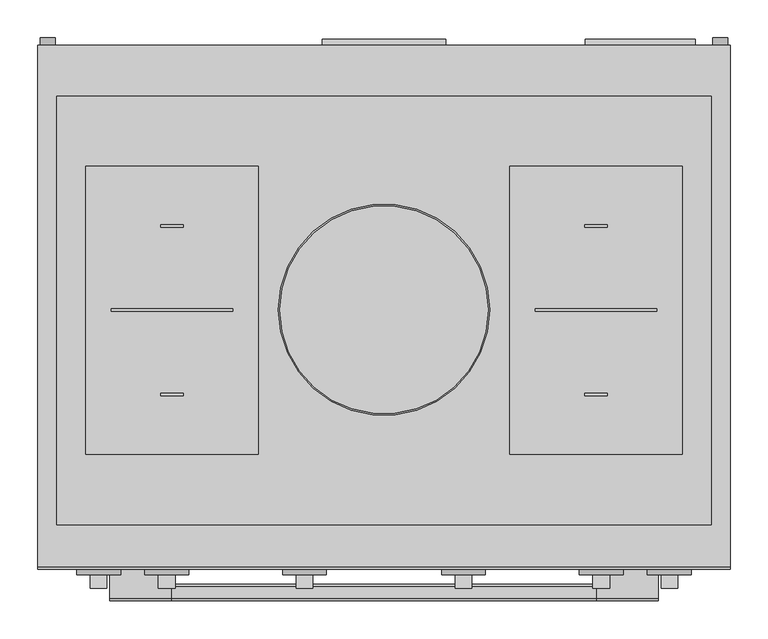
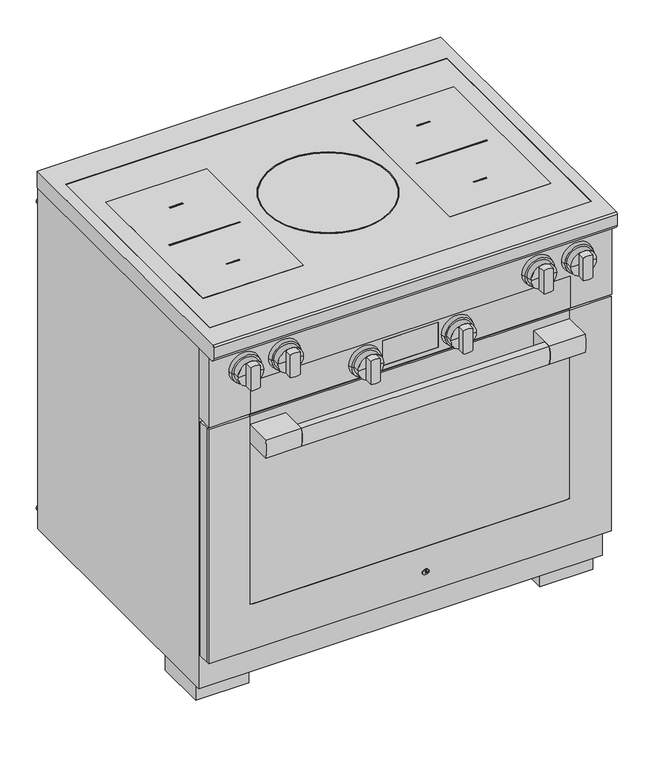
"""IFC4 building model written with IfcOpenShell, lengths in millimetres: proxy geometry, 12535250_USA_HR1432-3_EDST-CLST : 25143281_USA_12535250_HR1432-3_EDST-CLST."""

from ifc_helpers import new_model, si_unit, point, frame, frame_2d, origin, origin_with_axes, place, context, project, spatial, polyline, circle_curve, ellipse_curve, trimmed, segment, composite_curve, outline, extrude, faceted_brep, source, transform, mapped, element, save
from ifc_brep_helpers import plane_surface, cylinder_surface, revolved_surface, extruded_surface, advanced_brep


def specialty_equipment_34f8124d(model_context):
    return source(origin(), model_context, "Body", "SolidModel", [
        extrude(outline(polyline([(-427.0, -617.0), (427.0, -617.0), (427.0, -638.0), (-427.0, -638.0), (-427.0, -617.0)])), frame((0.0, 0.0, 133.0), z_axis=(0.0, 0.0, 1.0), x_axis=(1.0, 0.0, 0.0)), (0.0, 0.0, 1.0), 550.0),
        advanced_brep(
        [(363.0, -664.7, 688.0), (456.0, -664.7, 688.0), (456.0, -664.7, 127.0), (-456.0, -664.7, 127.0), (-456.0, -664.7, 688.0), (-363.0, -664.7, 688.0), (-363.0, -664.7, 687.0), (-455.0, -664.7, 687.0), (-455.0, -664.7, 128.0), (455.0, -664.7, 128.0), (455.0, -664.7, 687.0), (363.0, -664.7, 687.0), (-363.0, -670.0, 688.0), (-456.0, -670.0, 688.0), (-456.0, -670.0, 127.0), (456.0, -670.0, 127.0), (456.0, -670.0, 688.0), (363.0, -670.0, 688.0), (363.0, -670.0, 241.0), (357.0, -670.0, 235.0), (-357.0, -670.0, 235.0), (-363.0, -670.0, 241.0), (-363.0, -668.7, 241.0), (-363.0, -668.7, 687.0), (357.0, -668.7, 235.0), (-357.0, -668.7, 235.0), (363.0, -668.7, 687.0), (363.0, -668.7, 241.0), (455.0, -668.7, 687.0), (455.0, -668.7, 128.0), (-455.0, -668.7, 128.0), (-455.0, -668.7, 687.0)],
        [
            (0, 1),
            (1, 2),
            (2, 3),
            (3, 4),
            (4, 5),
            (5, 6),
            (6, 7),
            (7, 8),
            (8, 9),
            (9, 10),
            (10, 11),
            (11, 0),
            (12, 13),
            (13, 14),
            (14, 15),
            (15, 16),
            (16, 17),
            (17, 18),
            (18, 19, circle_curve(frame((357.0, -670.0, 241.0), z_axis=(0.0, 1.0, 0.0), x_axis=(-1.0, 0.0, 0.0)), 6.0)),
            (19, 20),
            (20, 21, circle_curve(frame((-357.0, -670.0, 241.0), z_axis=(0.0, 1.0, 0.0), x_axis=(-1.0, 0.0, 0.0)), 6.0)),
            (21, 12),
            (21, 22),
            (22, 23),
            (23, 6),
            (5, 12),
            (19, 24),
            (24, 25),
            (25, 20),
            (17, 0),
            (11, 26),
            (26, 27),
            (27, 18),
            (16, 1),
            (15, 2),
            (14, 3),
            (13, 4),
            (25, 22, circle_curve(frame((-357.0, -668.7, 241.0), z_axis=(0.0, 1.0, 0.0), x_axis=(-1.0, 0.0, 0.0)), 6.0)),
            (27, 24, circle_curve(frame((357.0, -668.7, 241.0), z_axis=(0.0, 1.0, 0.0), x_axis=(-1.0, 0.0, 0.0)), 6.0)),
            (28, 29),
            (29, 30),
            (30, 31),
            (31, 23),
            (26, 28),
            (28, 10),
            (9, 29),
            (8, 30),
            (7, 31),
        ],
        [
            plane_surface(frame((-363.0, -664.7, 241.0), z_axis=(0.0, 1.0, 0.0), x_axis=(0.0, 0.0, -1.0))),
            plane_surface(frame((-363.0, -670.0, 241.0), z_axis=(0.0, -1.0, 0.0), x_axis=(0.0, 0.0, 1.0))),
            plane_surface(frame((-363.0, -664.7, 688.0), z_axis=(1.0, 0.0, 0.0), x_axis=(0.0, -1.0, 0.0))),
            plane_surface(frame((-357.0, -664.7, 235.0), z_axis=(0.0, 0.0, 1.0), x_axis=(0.0, -1.0, 0.0))),
            plane_surface(frame((363.0, -664.7, 241.0), z_axis=(-1.0, 0.0, 0.0), x_axis=(0.0, -1.0, 0.0))),
            plane_surface(frame((363.0, -664.7, 688.0), z_axis=(0.0, 0.0, 1.0), x_axis=(0.0, -1.0, 0.0))),
            plane_surface(frame((456.0, -664.7, 688.0), z_axis=(1.0, 0.0, 0.0), x_axis=(0.0, -1.0, 0.0))),
            plane_surface(frame((456.0, -664.7, 127.0), z_axis=(0.0, 0.0, -1.0), x_axis=(0.0, -1.0, 0.0))),
            plane_surface(frame((-456.0, -664.7, 127.0), z_axis=(-1.0, 0.0, 0.0), x_axis=(0.0, -1.0, 0.0))),
            plane_surface(frame((-456.0, -664.7, 688.0), z_axis=(0.0, 0.0, 1.0), x_axis=(0.0, -1.0, 0.0))),
            revolved_surface(polyline([(-363.0, -670.0, 241.0), (-363.0, -668.7, 241.0)]), (-357.0, -670.0, 241.0), (0.0, -1.0, 0.0)),
            revolved_surface(polyline([(351.0, -670.0, 241.0), (351.0, -668.7, 241.0)]), (357.0, -670.0, 241.0), (0.0, -1.0, 0.0)),
            plane_surface(frame((455.0, -668.7, 687.0), z_axis=(0.0, 1.0, 0.0), x_axis=(0.0, 0.0, 1.0))),
            plane_surface(frame((455.0, -664.7, 687.0), z_axis=(-1.0, 0.0, 0.0), x_axis=(0.0, -1.0, 0.0))),
            plane_surface(frame((455.0, -664.7, 128.0), z_axis=(0.0, 0.0, 1.0), x_axis=(0.0, -1.0, 0.0))),
            plane_surface(frame((-455.0, -664.7, 128.0), z_axis=(1.0, 0.0, 0.0), x_axis=(0.0, -1.0, 0.0))),
            plane_surface(frame((-455.0, -664.7, 687.0), z_axis=(0.0, 0.0, -1.0), x_axis=(0.0, -1.0, 0.0))),
        ],
        [
            (0, [[1, 2, 3, 4, 5, 6, 7, 8, 9, 10, 11, 12]]),
            (1, [[13, 14, 15, 16, 17, 18, 19, 20, 21, 22]]),
            (2, [[-22, 23, 24, 25, -6, 26]]),
            (3, [[-20, 27, 28, 29]]),
            (4, [[-18, 30, -12, 31, 32, 33]]),
            (5, [[-1, -30, -17, 34]]),
            (6, [[-2, -34, -16, 35]]),
            (7, [[-3, -35, -15, 36]]),
            (8, [[-4, -36, -14, 37]]),
            (9, [[-5, -37, -13, -26]]),
            (10, [[-21, -29, 38, -23]]),
            (11, [[-19, -33, 39, -27]]),
            (12, [[40, 41, 42, 43, -24, -38, -28, -39, -32, 44]]),
            (13, [[-40, 45, -10, 46]]),
            (14, [[-41, -46, -9, 47]]),
            (15, [[-42, -47, -8, 48]]),
            (16, [[-45, -44, -31, -11]]),
            (16, [[-48, -7, -25, -43]]),
        ],
    ),
        extrude(outline(polyline([(-455.0, -664.7), (455.0, -664.7), (455.0, -668.7), (-455.0, -668.7), (-455.0, -664.7)])), frame((0.0, 0.0, 128.0), z_axis=(0.0, 0.0, 1.0), x_axis=(1.0, 0.0, 0.0)), (0.0, 0.0, 1.0), 559.0),
        extrude(outline(polyline([(-456.0, -638.0), (456.0, -638.0), (456.0, -664.7), (-456.0, -664.7), (-456.0, -638.0)])), frame((0.0, 0.0, 127.0), z_axis=(0.0, 0.0, 1.0), x_axis=(1.0, 0.0, 0.0)), (0.0, 0.0, 1.0), 561.0),
        extrude(outline(composite_curve([segment(polyline([(-668.7, 667.0), (-668.7, 624.0), (-731.0, 624.0)]), True, "CONTINUOUS"), segment(trimmed(circle_curve(frame_2d((-655.4583333, 645.5)), 78.5416667), [point((-731.0, 624.0))], [point((-731.0, 667.0))], False, "CARTESIAN"), True, "CONTINUOUS"), segment(polyline([(-731.0, 667.0), (-668.7, 667.0)]), True, "CONTINUOUS")], self_intersect=False)), frame((-362.0, 0.0, 0.0), z_axis=(1.0, 0.0, 0.0), x_axis=(0.0, 1.0, 0.0)), (0.0, 0.0, 1.0), 81.0),
        extrude(outline(composite_curve([segment(polyline([(-731.0, 667.0), (-668.7, 667.0), (-668.7, 624.0), (-731.0, 624.0)]), True, "CONTINUOUS"), segment(trimmed(circle_curve(frame_2d((-655.4583333, 645.5)), 78.5416667), [point((-731.0, 624.0))], [point((-731.0, 667.0))], False, "CARTESIAN"), True, "CONTINUOUS")], self_intersect=False)), frame((281.0, 0.0, 0.0), z_axis=(1.0, 0.0, 0.0), x_axis=(0.0, 1.0, 0.0)), (0.0, 0.0, 1.0), 81.0),
        extrude(outline(composite_curve([segment(polyline([(-714.0, 624.0), (-731.0, 624.0)]), True, "CONTINUOUS"), segment(trimmed(circle_curve(frame_2d((-655.4583333, 645.5)), 78.5416667), [point((-731.0, 624.0))], [point((-731.0, 667.0))], False, "CARTESIAN"), True, "CONTINUOUS"), segment(polyline([(-731.0, 667.0), (-714.0, 667.0)]), True, "CONTINUOUS"), segment(trimmed(circle_curve(frame_2d((-789.5416667, 645.5)), 78.5416667), [point((-714.0, 667.0))], [point((-714.0, 624.0))], False, "CARTESIAN"), True, "CONTINUOUS")], self_intersect=False)), frame((-281.0, 0.0, 0.0), z_axis=(1.0, 0.0, 0.0), x_axis=(0.0, 1.0, 0.0)), (0.0, 0.0, 1.0), 562.0),
        advanced_brep(
        [(457.2, 0.0, 902.0), (457.2, -688.3499547, 902.0), (457.2, -692.0, 898.3499547), (457.2, -692.0, 872.0), (457.2, -682.0, 862.0), (457.2, 0.0, 862.0), (-457.2, 0.0, 902.0), (-457.2, 0.0, 862.0), (-457.2, -682.0, 862.0), (-457.2, -692.0, 872.0), (-457.2, -692.0, 898.3499547), (-457.2, -688.3499547, 902.0), (-432.2, -67.0, 902.0), (432.2, -67.0, 902.0), (432.2, -633.0, 902.0), (-432.2, -633.0, 902.0), (432.2, -67.0, 870.0), (-432.2, -67.0, 870.0), (-432.2, -633.0, 870.0), (432.2, -633.0, 870.0)],
        [
            (0, 1),
            (1, 2, circle_curve(frame((457.2, -688.0, 898.0), z_axis=(1.0, 0.0, 0.0), x_axis=(0.0, 0.0, 1.0)), 4.0152794)),
            (2, 3),
            (3, 4, circle_curve(frame((457.2, -682.0, 872.0), z_axis=(1.0, 0.0, 0.0), x_axis=(0.0, 0.0, 1.0)), 10.0)),
            (4, 5),
            (5, 0),
            (6, 7),
            (7, 8),
            (8, 9, circle_curve(frame((-457.2, -682.0, 872.0), z_axis=(-1.0, 0.0, 0.0), x_axis=(0.0, 0.0, 1.0)), 10.0)),
            (9, 10),
            (10, 11, circle_curve(frame((-457.2, -688.0, 898.0), z_axis=(-1.0, 0.0, 0.0), x_axis=(0.0, 0.0, 1.0)), 4.0152794)),
            (11, 6),
            (0, 6),
            (11, 1),
            (12, 13),
            (13, 14),
            (14, 15),
            (15, 12),
            (10, 2),
            (9, 3),
            (8, 4),
            (7, 5),
            (16, 17),
            (17, 18),
            (18, 19),
            (19, 16),
            (16, 13),
            (12, 17),
            (15, 18),
            (14, 19),
        ],
        [
            plane_surface(frame((457.2, -688.3499547, 902.0), z_axis=(1.0, 0.0, 0.0), x_axis=(0.0, -1.0, 0.0))),
            plane_surface(frame((-457.2, -688.3499547, 902.0), z_axis=(-1.0, 0.0, 0.0), x_axis=(0.0, 1.0, 0.0))),
            plane_surface(frame((457.2, 0.0, 902.0), z_axis=(0.0, 0.0, 1.0), x_axis=(-1.0, 0.0, 0.0))),
            cylinder_surface(frame((-457.2, -688.0, 898.0), z_axis=(1.0, 0.0, 0.0), x_axis=(0.0, 0.0, 1.0)), 4.0152794),
            plane_surface(frame((457.2, -692.0, 898.3499547), z_axis=(0.0, -1.0, 0.0), x_axis=(-1.0, 0.0, 0.0))),
            cylinder_surface(frame((-457.2, -682.0, 872.0), z_axis=(1.0, 0.0, 0.0), x_axis=(0.0, 0.0, 1.0)), 10.0),
            plane_surface(frame((457.2, -682.0, 862.0), z_axis=(0.0, 0.0, -1.0), x_axis=(-1.0, 0.0, 0.0))),
            plane_surface(frame((457.2, 0.0, 862.0), z_axis=(0.0, 1.0, 0.0), x_axis=(-1.0, 0.0, 0.0))),
            plane_surface(frame((-432.2, -67.0, 870.0), z_axis=(0.0, 0.0, 1.0), x_axis=(1.0, 0.0, 0.0))),
            plane_surface(frame((432.2, -67.0, 902.0), z_axis=(0.0, -1.0, 0.0), x_axis=(0.0, 0.0, -1.0))),
            plane_surface(frame((-432.2, -67.0, 902.0), z_axis=(1.0, 0.0, 0.0), x_axis=(0.0, 0.0, -1.0))),
            plane_surface(frame((-432.2, -633.0, 902.0), z_axis=(0.0, 1.0, 0.0), x_axis=(0.0, 0.0, -1.0))),
            plane_surface(frame((432.2, -633.0, 902.0), z_axis=(-1.0, 0.0, 0.0), x_axis=(0.0, 0.0, -1.0))),
        ],
        [
            (0, [[1, 2, 3, 4, 5, 6]]),
            (1, [[7, 8, 9, 10, 11, 12]]),
            (2, [[-1, 13, -12, 14], [15, 16, 17, 18]]),
            (3, [[-2, -14, -11, 19]]),
            (4, [[-3, -19, -10, 20]]),
            (5, [[-4, -20, -9, 21]]),
            (6, [[-5, -21, -8, 22]]),
            (7, [[-6, -22, -7, -13]]),
            (8, [[23, 24, 25, 26]]),
            (9, [[-23, 27, -15, 28]]),
            (10, [[-24, -28, -18, 29]]),
            (11, [[-25, -29, -17, 30]]),
            (12, [[-26, -30, -16, -27]]),
        ],
    ),
        extrude(outline(polyline([(432.2, -67.0), (432.2, -633.0), (-432.2, -633.0), (-432.2, -67.0), (432.2, -67.0)])), frame((0.0, 0.0, 870.0), z_axis=(0.0, 0.0, 1.0), x_axis=(1.0, 0.0, 0.0)), (0.0, 0.0, 1.0), 31.0),
        extrude(outline(polyline([(-166.0, -159.3989873), (-166.0, -539.8678148), (-394.201755, -539.8678148), (-394.201755, -159.3989873), (-166.0, -159.3989873)]), holes=[polyline([(-265.3489846, -236.8651827), (-294.6633805, -236.8651827), (-294.6633805, -240.0725285), (-265.3489846, -240.0725285), (-265.3489846, -236.8651827)]), polyline([(-360.054561, -351.2750827), (-199.9494834, -351.2750827), (-199.9494834, -348.0763858), (-360.054561, -348.0763858), (-360.054561, -351.2750827)]), polyline([(-265.349699, -462.4751274), (-265.349699, -459.2749099), (-294.6584617, -459.2749099), (-294.6584617, -462.4751274), (-265.349699, -462.4751274)])]), frame((0.0, 0.0, 901.0), z_axis=(0.0, 0.0, 1.0), x_axis=(1.0, 0.0, 0.0)), (0.0, 0.0, 1.0), 1.0),
        extrude(outline(polyline([(166.0, -159.3989873), (394.201755, -159.3989873), (394.201755, -539.8678148), (166.0, -539.8678148), (166.0, -159.3989873)]), holes=[polyline([(265.3489846, -236.8651827), (265.3489846, -240.0725285), (294.6633805, -240.0725285), (294.6633805, -236.8651827), (265.3489846, -236.8651827)]), polyline([(360.054561, -351.2750827), (360.054561, -348.0763858), (199.9494834, -348.0763858), (199.9494834, -351.2750827), (360.054561, -351.2750827)]), polyline([(265.349699, -462.4751274), (294.6584617, -462.4751274), (294.6584617, -459.2749099), (265.349699, -459.2749099), (265.349699, -462.4751274)])]), frame((0.0, 0.0, 901.0), z_axis=(0.0, 0.0, 1.0), x_axis=(1.0, 0.0, 0.0)), (0.0, 0.0, 1.0), 1.0),
        extrude(outline(composite_curve([segment(trimmed(circle_curve(frame_2d((0.0, -349.3529177)), 139.5), [point((139.5, -349.3529177))], [point((-139.5, -349.3529177))], False, "CARTESIAN"), True, "CONTINUOUS"), segment(trimmed(circle_curve(frame_2d((0.0, -349.3529177)), 139.5), [point((-139.5, -349.3529177))], [point((139.5, -349.3529177))], False, "CARTESIAN"), True, "CONTINUOUS")], self_intersect=False), holes=[composite_curve([segment(trimmed(circle_curve(frame_2d((0.0, -349.3918843)), 137.5), [point((137.5, -349.3918843))], [point((-137.5, -349.3918843))], True, "CARTESIAN"), True, "CONTINUOUS"), segment(trimmed(circle_curve(frame_2d((0.0, -349.3918843)), 137.5), [point((-137.5, -349.3918843))], [point((137.5, -349.3918843))], True, "CARTESIAN"), True, "CONTINUOUS")], self_intersect=False)]), frame((0.0, 0.0, 901.0), z_axis=(0.0, 0.0, 1.0), x_axis=(1.0, 0.0, 0.0)), (0.0, 0.0, 1.0), 1.0),
        advanced_brep(
        [(377.0, -683.0, 813.0), (406.0, -683.0, 813.0), (348.0, -683.0, 813.0), (348.0, -699.0, 813.0), (406.0, -699.0, 813.0), (377.0, -699.0, 813.0)],
        [
            (0, 1),
            (1, 2, circle_curve(frame((377.0, -683.0, 813.0), z_axis=(0.0, 1.0, 0.0), x_axis=(1.0, 0.0, 0.0)), 29.0)),
            (2, 0),
            (2, 1, circle_curve(frame((377.0, -683.0, 813.0), z_axis=(0.0, 1.0, 0.0), x_axis=(1.0, 0.0, 0.0)), 29.0)),
            (3, 4, circle_curve(frame((377.0, -699.0, 813.0), z_axis=(0.0, -1.0, 0.0), x_axis=(1.0, 0.0, 0.0)), 29.0)),
            (4, 5),
            (5, 3),
            (4, 3, circle_curve(frame((377.0, -699.0, 813.0), z_axis=(0.0, -1.0, 0.0), x_axis=(1.0, 0.0, 0.0)), 29.0)),
            (1, 4),
            (3, 2),
        ],
        [
            plane_surface(frame((377.0, -683.0, 813.0), z_axis=(0.0, 1.0, 0.0), x_axis=(1.0, 0.0, 0.0))),
            plane_surface(frame((377.0, -699.0, 813.0), z_axis=(0.0, -1.0, 0.0), x_axis=(1.0, 0.0, 0.0))),
            cylinder_surface(frame((377.0, 751.3738435, 813.0), z_axis=(0.0, 1.0, 0.0), x_axis=(1.0, 0.0, 0.0)), 29.0),
        ],
        [
            (0, [[1, 2, 3]]),
            (0, [[-3, 4, -1]]),
            (1, [[5, 6, 7]]),
            (1, [[8, -7, -6]]),
            (2, [[-2, 9, -5, 10]]),
            (2, [[-4, -10, -8, -9]]),
        ],
    ),
        extrude(outline(composite_curve([segment(polyline([(786.1671843, 388.0), (839.8328157, 388.0)]), True, "CONTINUOUS"), segment(trimmed(circle_curve(frame_2d((813.0, 377.0)), 29.0), [point((839.8328157, 388.0))], [point((839.8328157, 366.0))], False, "CARTESIAN"), True, "CONTINUOUS"), segment(polyline([(839.8328157, 366.0), (786.1671843, 366.0)]), True, "CONTINUOUS"), segment(trimmed(circle_curve(frame_2d((813.0, 377.0)), 29.0), [point((786.1671843, 366.0))], [point((786.1671843, 388.0))], False, "CARTESIAN"), True, "CONTINUOUS")], self_intersect=False)), frame((0.0, -717.0, 0.0), z_axis=(0.0, 1.0, 0.0), x_axis=(0.0, 0.0, 1.0)), (0.0, 0.0, 1.0), 18.0),
        advanced_brep(
        [(287.0, -683.0, 813.0), (316.0, -683.0, 813.0), (258.0, -683.0, 813.0), (258.0, -699.0, 813.0), (316.0, -699.0, 813.0), (287.0, -699.0, 813.0)],
        [
            (0, 1),
            (1, 2, circle_curve(frame((287.0, -683.0, 813.0), z_axis=(0.0, 1.0, 0.0), x_axis=(1.0, 0.0, 0.0)), 29.0)),
            (2, 0),
            (2, 1, circle_curve(frame((287.0, -683.0, 813.0), z_axis=(0.0, 1.0, 0.0), x_axis=(1.0, 0.0, 0.0)), 29.0)),
            (3, 4, circle_curve(frame((287.0, -699.0, 813.0), z_axis=(0.0, -1.0, 0.0), x_axis=(1.0, 0.0, 0.0)), 29.0)),
            (4, 5),
            (5, 3),
            (4, 3, circle_curve(frame((287.0, -699.0, 813.0), z_axis=(0.0, -1.0, 0.0), x_axis=(1.0, 0.0, 0.0)), 29.0)),
            (1, 4),
            (3, 2),
        ],
        [
            plane_surface(frame((287.0, -683.0, 813.0), z_axis=(0.0, 1.0, 0.0), x_axis=(1.0, 0.0, 0.0))),
            plane_surface(frame((287.0, -699.0, 813.0), z_axis=(0.0, -1.0, 0.0), x_axis=(1.0, 0.0, 0.0))),
            cylinder_surface(frame((287.0, 751.3738435, 813.0), z_axis=(0.0, 1.0, 0.0), x_axis=(1.0, 0.0, 0.0)), 29.0),
        ],
        [
            (0, [[1, 2, 3]]),
            (0, [[-3, 4, -1]]),
            (1, [[5, 6, 7]]),
            (1, [[8, -7, -6]]),
            (2, [[-2, 9, -5, 10]]),
            (2, [[-4, -10, -8, -9]]),
        ],
    ),
        advanced_brep(
        [(-287.0, -683.0, 813.0), (-258.0, -683.0, 813.0), (-316.0, -683.0, 813.0), (-316.0, -699.0, 813.0), (-258.0, -699.0, 813.0), (-287.0, -699.0, 813.0)],
        [
            (0, 1),
            (1, 2, circle_curve(frame((-287.0, -683.0, 813.0), z_axis=(0.0, 1.0, 0.0), x_axis=(1.0, 0.0, 0.0)), 29.0)),
            (2, 0),
            (2, 1, circle_curve(frame((-287.0, -683.0, 813.0), z_axis=(0.0, 1.0, 0.0), x_axis=(1.0, 0.0, 0.0)), 29.0)),
            (3, 4, circle_curve(frame((-287.0, -699.0, 813.0), z_axis=(0.0, -1.0, 0.0), x_axis=(1.0, 0.0, 0.0)), 29.0)),
            (4, 5),
            (5, 3),
            (4, 3, circle_curve(frame((-287.0, -699.0, 813.0), z_axis=(0.0, -1.0, 0.0), x_axis=(1.0, 0.0, 0.0)), 29.0)),
            (1, 4),
            (3, 2),
        ],
        [
            plane_surface(frame((-287.0, -683.0, 813.0), z_axis=(0.0, 1.0, 0.0), x_axis=(1.0, 0.0, 0.0))),
            plane_surface(frame((-287.0, -699.0, 813.0), z_axis=(0.0, -1.0, 0.0), x_axis=(1.0, 0.0, 0.0))),
            cylinder_surface(frame((-287.0, 751.3738435, 813.0), z_axis=(0.0, 1.0, 0.0), x_axis=(1.0, 0.0, 0.0)), 29.0),
        ],
        [
            (0, [[1, 2, 3]]),
            (0, [[-3, 4, -1]]),
            (1, [[5, 6, 7]]),
            (1, [[8, -7, -6]]),
            (2, [[-2, 9, -5, 10]]),
            (2, [[-4, -10, -8, -9]]),
        ],
    ),
        advanced_brep(
        [(-377.0, -683.0, 813.0), (-348.0, -683.0, 813.0), (-406.0, -683.0, 813.0), (-406.0, -699.0, 813.0), (-348.0, -699.0, 813.0), (-377.0, -699.0, 813.0)],
        [
            (0, 1),
            (1, 2, circle_curve(frame((-377.0, -683.0, 813.0), z_axis=(0.0, 1.0, 0.0), x_axis=(1.0, 0.0, 0.0)), 29.0)),
            (2, 0),
            (2, 1, circle_curve(frame((-377.0, -683.0, 813.0), z_axis=(0.0, 1.0, 0.0), x_axis=(1.0, 0.0, 0.0)), 29.0)),
            (3, 4, circle_curve(frame((-377.0, -699.0, 813.0), z_axis=(0.0, -1.0, 0.0), x_axis=(1.0, 0.0, 0.0)), 29.0)),
            (4, 5),
            (5, 3),
            (4, 3, circle_curve(frame((-377.0, -699.0, 813.0), z_axis=(0.0, -1.0, 0.0), x_axis=(1.0, 0.0, 0.0)), 29.0)),
            (1, 4),
            (3, 2),
        ],
        [
            plane_surface(frame((-377.0, -683.0, 813.0), z_axis=(0.0, 1.0, 0.0), x_axis=(1.0, 0.0, 0.0))),
            plane_surface(frame((-377.0, -699.0, 813.0), z_axis=(0.0, -1.0, 0.0), x_axis=(1.0, 0.0, 0.0))),
            cylinder_surface(frame((-377.0, 751.3738435, 813.0), z_axis=(0.0, 1.0, 0.0), x_axis=(1.0, 0.0, 0.0)), 29.0),
        ],
        [
            (0, [[1, 2, 3]]),
            (0, [[-3, 4, -1]]),
            (1, [[5, 6, 7]]),
            (1, [[8, -7, -6]]),
            (2, [[-2, 9, -5, 10]]),
            (2, [[-4, -10, -8, -9]]),
        ],
    ),
        extrude(outline(composite_curve([segment(trimmed(circle_curve(frame_2d((813.0, 287.0)), 29.0), [point((786.1671843, 276.0))], [point((786.1671843, 298.0))], False, "CARTESIAN"), True, "CONTINUOUS"), segment(polyline([(786.1671843, 298.0), (839.8328157, 298.0)]), True, "CONTINUOUS"), segment(trimmed(circle_curve(frame_2d((813.0, 287.0)), 29.0), [point((839.8328157, 298.0))], [point((839.8328157, 276.0))], False, "CARTESIAN"), True, "CONTINUOUS"), segment(polyline([(839.8328157, 276.0), (786.1671843, 276.0)]), True, "CONTINUOUS")], self_intersect=False)), frame((0.0, -717.0, 0.0), z_axis=(0.0, 1.0, 0.0), x_axis=(0.0, 0.0, 1.0)), (0.0, 0.0, 1.0), 18.0),
        extrude(outline(composite_curve([segment(polyline([(839.8328157, -298.0), (786.1671843, -298.0)]), True, "CONTINUOUS"), segment(trimmed(circle_curve(frame_2d((813.0, -287.0)), 29.0), [point((786.1671843, -298.0))], [point((786.1671843, -276.0))], False, "CARTESIAN"), True, "CONTINUOUS"), segment(polyline([(786.1671843, -276.0), (839.8328157, -276.0)]), True, "CONTINUOUS"), segment(trimmed(circle_curve(frame_2d((813.0, -287.0)), 29.0), [point((839.8328157, -276.0))], [point((839.8328157, -298.0))], False, "CARTESIAN"), True, "CONTINUOUS")], self_intersect=False)), frame((0.0, -717.0, 0.0), z_axis=(0.0, 1.0, 0.0), x_axis=(0.0, 0.0, 1.0)), (0.0, 0.0, 1.0), 18.0),
        extrude(outline(composite_curve([segment(polyline([(839.8328157, -388.0), (786.1671843, -388.0)]), True, "CONTINUOUS"), segment(trimmed(circle_curve(frame_2d((813.0, -377.0)), 29.0), [point((786.1671843, -388.0))], [point((786.1671843, -366.0))], False, "CARTESIAN"), True, "CONTINUOUS"), segment(polyline([(786.1671843, -366.0), (839.8328157, -366.0)]), True, "CONTINUOUS"), segment(trimmed(circle_curve(frame_2d((813.0, -377.0)), 29.0), [point((839.8328157, -366.0))], [point((839.8328157, -388.0))], False, "CARTESIAN"), True, "CONTINUOUS")], self_intersect=False)), frame((0.0, -717.0, 0.0), z_axis=(0.0, 1.0, 0.0), x_axis=(0.0, 0.0, 1.0)), (0.0, 0.0, 1.0), 18.0),
        advanced_brep(
        [(105.0, -683.0, 733.0), (134.0, -683.0, 733.0), (76.0, -683.0, 733.0), (76.0, -699.0, 733.0), (134.0, -699.0, 733.0), (105.0, -699.0, 733.0)],
        [
            (0, 1),
            (1, 2, circle_curve(frame((105.0, -683.0, 733.0), z_axis=(0.0, 1.0, 0.0), x_axis=(1.0, 0.0, 0.0)), 29.0)),
            (2, 0),
            (2, 1, circle_curve(frame((105.0, -683.0, 733.0), z_axis=(0.0, 1.0, 0.0), x_axis=(1.0, 0.0, 0.0)), 29.0)),
            (3, 4, circle_curve(frame((105.0, -699.0, 733.0), z_axis=(0.0, -1.0, 0.0), x_axis=(1.0, 0.0, 0.0)), 29.0)),
            (4, 5),
            (5, 3),
            (4, 3, circle_curve(frame((105.0, -699.0, 733.0), z_axis=(0.0, -1.0, 0.0), x_axis=(1.0, 0.0, 0.0)), 29.0)),
            (1, 4),
            (3, 2),
        ],
        [
            plane_surface(frame((105.0, -683.0, 733.0), z_axis=(0.0, 1.0, 0.0), x_axis=(1.0, 0.0, 0.0))),
            plane_surface(frame((105.0, -699.0, 733.0), z_axis=(0.0, -1.0, 0.0), x_axis=(1.0, 0.0, 0.0))),
            cylinder_surface(frame((105.0, 751.3738435, 733.0), z_axis=(0.0, 1.0, 0.0), x_axis=(1.0, 0.0, 0.0)), 29.0),
        ],
        [
            (0, [[1, 2, 3]]),
            (0, [[-3, 4, -1]]),
            (1, [[5, 6, 7]]),
            (1, [[8, -7, -6]]),
            (2, [[-2, 9, -5, 10]]),
            (2, [[-4, -10, -8, -9]]),
        ],
    ),
        advanced_brep(
        [(-105.0, -683.0, 733.0), (-76.0, -683.0, 733.0), (-134.0, -683.0, 733.0), (-134.0, -699.0, 733.0), (-76.0, -699.0, 733.0), (-105.0, -699.0, 733.0)],
        [
            (0, 1),
            (1, 2, circle_curve(frame((-105.0, -683.0, 733.0), z_axis=(0.0, 1.0, 0.0), x_axis=(1.0, 0.0, 0.0)), 29.0)),
            (2, 0),
            (2, 1, circle_curve(frame((-105.0, -683.0, 733.0), z_axis=(0.0, 1.0, 0.0), x_axis=(1.0, 0.0, 0.0)), 29.0)),
            (3, 4, circle_curve(frame((-105.0, -699.0, 733.0), z_axis=(0.0, -1.0, 0.0), x_axis=(1.0, 0.0, 0.0)), 29.0)),
            (4, 5),
            (5, 3),
            (4, 3, circle_curve(frame((-105.0, -699.0, 733.0), z_axis=(0.0, -1.0, 0.0), x_axis=(1.0, 0.0, 0.0)), 29.0)),
            (1, 4),
            (3, 2),
        ],
        [
            plane_surface(frame((-105.0, -683.0, 733.0), z_axis=(0.0, 1.0, 0.0), x_axis=(1.0, 0.0, 0.0))),
            plane_surface(frame((-105.0, -699.0, 733.0), z_axis=(0.0, -1.0, 0.0), x_axis=(1.0, 0.0, 0.0))),
            cylinder_surface(frame((-105.0, 751.3738435, 733.0), z_axis=(0.0, 1.0, 0.0), x_axis=(1.0, 0.0, 0.0)), 29.0),
        ],
        [
            (0, [[1, 2, 3]]),
            (0, [[-3, 4, -1]]),
            (1, [[5, 6, 7]]),
            (1, [[8, -7, -6]]),
            (2, [[-2, 9, -5, 10]]),
            (2, [[-4, -10, -8, -9]]),
        ],
    ),
        extrude(outline(composite_curve([segment(polyline([(759.8328157, -116.0), (706.1671843, -116.0)]), True, "CONTINUOUS"), segment(trimmed(circle_curve(frame_2d((733.0, -105.0)), 29.0), [point((706.1671843, -116.0))], [point((706.1671843, -94.0))], False, "CARTESIAN"), True, "CONTINUOUS"), segment(polyline([(706.1671843, -94.0), (759.8328157, -94.0)]), True, "CONTINUOUS"), segment(trimmed(circle_curve(frame_2d((733.0, -105.0)), 29.0), [point((759.8328157, -94.0))], [point((759.8328157, -116.0))], False, "CARTESIAN"), True, "CONTINUOUS")], self_intersect=False)), frame((0.0, -717.0, 0.0), z_axis=(0.0, 1.0, 0.0), x_axis=(0.0, 0.0, 1.0)), (0.0, 0.0, 1.0), 18.0),
        extrude(outline(composite_curve([segment(polyline([(759.8328157, 94.0), (706.1671843, 94.0)]), True, "CONTINUOUS"), segment(trimmed(circle_curve(frame_2d((733.0, 105.0)), 29.0), [point((706.1671843, 94.0))], [point((706.1671843, 116.0))], False, "CARTESIAN"), True, "CONTINUOUS"), segment(polyline([(706.1671843, 116.0), (759.8328157, 116.0)]), True, "CONTINUOUS"), segment(trimmed(circle_curve(frame_2d((733.0, 105.0)), 29.0), [point((759.8328157, 116.0))], [point((759.8328157, 94.0))], False, "CARTESIAN"), True, "CONTINUOUS")], self_intersect=False)), frame((0.0, -717.0, 0.0), z_axis=(0.0, 1.0, 0.0), x_axis=(0.0, 0.0, 1.0)), (0.0, 0.0, 1.0), 18.0),
        advanced_brep(
        [(343.7632698, -683.0, 813.0), (410.2367302, -683.0, 813.0), (377.0, -683.0, 813.0), (342.0, -673.0, 813.0), (412.0, -673.0, 813.0), (377.0, -673.0, 813.0)],
        [
            (0, 1, circle_curve(frame((377.0, -683.0, 813.0), z_axis=(0.0, -1.0, 0.0), x_axis=(1.0, 0.0, 0.0)), 33.2367302)),
            (1, 2),
            (2, 0),
            (1, 0, circle_curve(frame((377.0, -683.0, 813.0), z_axis=(0.0, -1.0, 0.0), x_axis=(1.0, 0.0, 0.0)), 33.2367302)),
            (3, 4, circle_curve(frame((377.0, -673.0, 813.0), z_axis=(0.0, -1.0, 0.0), x_axis=(1.0, 0.0, 0.0)), 35.0)),
            (4, 1),
            (0, 3),
            (4, 3, circle_curve(frame((377.0, -673.0, 813.0), z_axis=(0.0, -1.0, 0.0), x_axis=(1.0, 0.0, 0.0)), 35.0)),
            (5, 4),
            (3, 5),
        ],
        [
            plane_surface(frame((377.0, -683.0, 813.0), z_axis=(0.0, -1.0, 0.0), x_axis=(1.0, 0.0, 0.0))),
            revolved_surface(polyline([(410.2367302, -683.0, 813.0), (412.0, -673.0, 813.0)]), (377.0, 751.3738435, 813.0), (0.0, 1.0, 0.0)),
            plane_surface(frame((377.0, -673.0, 813.0), z_axis=(0.0, 1.0, 0.0), x_axis=(1.0, 0.0, 0.0))),
        ],
        [
            (0, [[1, 2, 3]]),
            (0, [[4, -3, -2]]),
            (1, [[5, 6, -1, 7]]),
            (1, [[8, -7, -4, -6]]),
            (2, [[9, -5, 10]]),
            (2, [[-10, -8, -9]]),
        ],
    ),
        advanced_brep(
        [(253.7632698, -683.0, 813.0), (320.2367302, -683.0, 813.0), (287.0, -683.0, 813.0), (252.0, -673.0, 813.0), (322.0, -673.0, 813.0), (287.0, -673.0, 813.0)],
        [
            (0, 1, circle_curve(frame((287.0, -683.0, 813.0), z_axis=(0.0, -1.0, 0.0), x_axis=(1.0, 0.0, 0.0)), 33.2367302)),
            (1, 2),
            (2, 0),
            (1, 0, circle_curve(frame((287.0, -683.0, 813.0), z_axis=(0.0, -1.0, 0.0), x_axis=(1.0, 0.0, 0.0)), 33.2367302)),
            (3, 4, circle_curve(frame((287.0, -673.0, 813.0), z_axis=(0.0, -1.0, 0.0), x_axis=(1.0, 0.0, 0.0)), 35.0)),
            (4, 1),
            (0, 3),
            (4, 3, circle_curve(frame((287.0, -673.0, 813.0), z_axis=(0.0, -1.0, 0.0), x_axis=(1.0, 0.0, 0.0)), 35.0)),
            (5, 4),
            (3, 5),
        ],
        [
            plane_surface(frame((287.0, -683.0, 813.0), z_axis=(0.0, -1.0, 0.0), x_axis=(1.0, 0.0, 0.0))),
            revolved_surface(polyline([(320.2367302, -683.0, 813.0), (322.0, -673.0, 813.0)]), (287.0, 751.3738435, 813.0), (0.0, 1.0, 0.0)),
            plane_surface(frame((287.0, -673.0, 813.0), z_axis=(0.0, 1.0, 0.0), x_axis=(1.0, 0.0, 0.0))),
        ],
        [
            (0, [[1, 2, 3]]),
            (0, [[4, -3, -2]]),
            (1, [[5, 6, -1, 7]]),
            (1, [[8, -7, -4, -6]]),
            (2, [[9, -5, 10]]),
            (2, [[-10, -8, -9]]),
        ],
    ),
        advanced_brep(
        [(-320.2367302, -683.0, 813.0), (-253.7632698, -683.0, 813.0), (-287.0, -683.0, 813.0), (-322.0, -673.0, 813.0), (-252.0, -673.0, 813.0), (-287.0, -673.0, 813.0)],
        [
            (0, 1, circle_curve(frame((-287.0, -683.0, 813.0), z_axis=(0.0, -1.0, 0.0), x_axis=(1.0, 0.0, 0.0)), 33.2367302)),
            (1, 2),
            (2, 0),
            (1, 0, circle_curve(frame((-287.0, -683.0, 813.0), z_axis=(0.0, -1.0, 0.0), x_axis=(1.0, 0.0, 0.0)), 33.2367302)),
            (3, 4, circle_curve(frame((-287.0, -673.0, 813.0), z_axis=(0.0, -1.0, 0.0), x_axis=(1.0, 0.0, 0.0)), 35.0)),
            (4, 1),
            (0, 3),
            (4, 3, circle_curve(frame((-287.0, -673.0, 813.0), z_axis=(0.0, -1.0, 0.0), x_axis=(1.0, 0.0, 0.0)), 35.0)),
            (5, 4),
            (3, 5),
        ],
        [
            plane_surface(frame((-287.0, -683.0, 813.0), z_axis=(0.0, -1.0, 0.0), x_axis=(1.0, 0.0, 0.0))),
            revolved_surface(polyline([(-253.7632698, -683.0, 813.0), (-252.0, -673.0, 813.0)]), (-287.0, 751.3738435, 813.0), (0.0, 1.0, 0.0)),
            plane_surface(frame((-287.0, -673.0, 813.0), z_axis=(0.0, 1.0, 0.0), x_axis=(1.0, 0.0, 0.0))),
        ],
        [
            (0, [[1, 2, 3]]),
            (0, [[4, -3, -2]]),
            (1, [[5, 6, -1, 7]]),
            (1, [[8, -7, -4, -6]]),
            (2, [[9, -5, 10]]),
            (2, [[-10, -8, -9]]),
        ],
    ),
        advanced_brep(
        [(-410.2367302, -683.0, 813.0), (-343.7632698, -683.0, 813.0), (-377.0, -683.0, 813.0), (-412.0, -673.0, 813.0), (-342.0, -673.0, 813.0), (-377.0, -673.0, 813.0)],
        [
            (0, 1, circle_curve(frame((-377.0, -683.0, 813.0), z_axis=(0.0, -1.0, 0.0), x_axis=(1.0, 0.0, 0.0)), 33.2367302)),
            (1, 2),
            (2, 0),
            (1, 0, circle_curve(frame((-377.0, -683.0, 813.0), z_axis=(0.0, -1.0, 0.0), x_axis=(1.0, 0.0, 0.0)), 33.2367302)),
            (3, 4, circle_curve(frame((-377.0, -673.0, 813.0), z_axis=(0.0, -1.0, 0.0), x_axis=(1.0, 0.0, 0.0)), 35.0)),
            (4, 1),
            (0, 3),
            (4, 3, circle_curve(frame((-377.0, -673.0, 813.0), z_axis=(0.0, -1.0, 0.0), x_axis=(1.0, 0.0, 0.0)), 35.0)),
            (5, 4),
            (3, 5),
        ],
        [
            plane_surface(frame((-377.0, -683.0, 813.0), z_axis=(0.0, -1.0, 0.0), x_axis=(1.0, 0.0, 0.0))),
            revolved_surface(polyline([(-343.7632698, -683.0, 813.0), (-342.0, -673.0, 813.0)]), (-377.0, 751.3738435, 813.0), (0.0, 1.0, 0.0)),
            plane_surface(frame((-377.0, -673.0, 813.0), z_axis=(0.0, 1.0, 0.0), x_axis=(1.0, 0.0, 0.0))),
        ],
        [
            (0, [[1, 2, 3]]),
            (0, [[4, -3, -2]]),
            (1, [[5, 6, -1, 7]]),
            (1, [[8, -7, -4, -6]]),
            (2, [[9, -5, 10]]),
            (2, [[-10, -8, -9]]),
        ],
    ),
        advanced_brep(
        [(71.7632698, -683.0, 733.0), (138.2367302, -683.0, 733.0), (105.0, -683.0, 733.0), (70.0, -673.0, 733.0), (140.0, -673.0, 733.0), (105.0, -673.0, 733.0)],
        [
            (0, 1, circle_curve(frame((105.0, -683.0, 733.0), z_axis=(0.0, -1.0, 0.0), x_axis=(1.0, 0.0, 0.0)), 33.2367302)),
            (1, 2),
            (2, 0),
            (1, 0, circle_curve(frame((105.0, -683.0, 733.0), z_axis=(0.0, -1.0, 0.0), x_axis=(1.0, 0.0, 0.0)), 33.2367302)),
            (3, 4, circle_curve(frame((105.0, -673.0, 733.0), z_axis=(0.0, -1.0, 0.0), x_axis=(1.0, 0.0, 0.0)), 35.0)),
            (4, 1),
            (0, 3),
            (4, 3, circle_curve(frame((105.0, -673.0, 733.0), z_axis=(0.0, -1.0, 0.0), x_axis=(1.0, 0.0, 0.0)), 35.0)),
            (5, 4),
            (3, 5),
        ],
        [
            plane_surface(frame((105.0, -683.0, 733.0), z_axis=(0.0, -1.0, 0.0), x_axis=(1.0, 0.0, 0.0))),
            revolved_surface(polyline([(138.2367302, -683.0, 733.0), (140.0, -673.0, 733.0)]), (105.0, 751.3738435, 733.0), (0.0, 1.0, 0.0)),
            plane_surface(frame((105.0, -673.0, 733.0), z_axis=(0.0, 1.0, 0.0), x_axis=(1.0, 0.0, 0.0))),
        ],
        [
            (0, [[1, 2, 3]]),
            (0, [[4, -3, -2]]),
            (1, [[5, 6, -1, 7]]),
            (1, [[8, -7, -4, -6]]),
            (2, [[9, -5, 10]]),
            (2, [[-10, -8, -9]]),
        ],
    ),
        advanced_brep(
        [(-138.2367302, -683.0, 733.0), (-71.7632698, -683.0, 733.0), (-105.0, -683.0, 733.0), (-140.0, -673.0, 733.0), (-70.0, -673.0, 733.0), (-105.0, -673.0, 733.0)],
        [
            (0, 1, circle_curve(frame((-105.0, -683.0, 733.0), z_axis=(0.0, -1.0, 0.0), x_axis=(1.0, 0.0, 0.0)), 33.2367302)),
            (1, 2),
            (2, 0),
            (1, 0, circle_curve(frame((-105.0, -683.0, 733.0), z_axis=(0.0, -1.0, 0.0), x_axis=(1.0, 0.0, 0.0)), 33.2367302)),
            (3, 4, circle_curve(frame((-105.0, -673.0, 733.0), z_axis=(0.0, -1.0, 0.0), x_axis=(1.0, 0.0, 0.0)), 35.0)),
            (4, 1),
            (0, 3),
            (4, 3, circle_curve(frame((-105.0, -673.0, 733.0), z_axis=(0.0, -1.0, 0.0), x_axis=(1.0, 0.0, 0.0)), 35.0)),
            (5, 4),
            (3, 5),
        ],
        [
            plane_surface(frame((-105.0, -683.0, 733.0), z_axis=(0.0, -1.0, 0.0), x_axis=(1.0, 0.0, 0.0))),
            revolved_surface(polyline([(-71.7632698, -683.0, 733.0), (-70.0, -673.0, 733.0)]), (-105.0, 751.3738435, 733.0), (0.0, 1.0, 0.0)),
            plane_surface(frame((-105.0, -673.0, 733.0), z_axis=(0.0, 1.0, 0.0), x_axis=(1.0, 0.0, 0.0))),
        ],
        [
            (0, [[1, 2, 3]]),
            (0, [[4, -3, -2]]),
            (1, [[5, 6, -1, 7]]),
            (1, [[8, -7, -4, -6]]),
            (2, [[9, -5, 10]]),
            (2, [[-10, -8, -9]]),
        ],
    ),
        faceted_brep([(456.0, -673.0, 862.0), (-456.0, -673.0, 862.0), (-456.0, -673.0, 695.0), (-363.0, -673.0, 695.0), (-363.0, -673.0, 772.0), (363.0, -673.0, 772.0), (363.0, -673.0, 695.0), (456.0, -673.0, 695.0), (456.0, -633.0, 862.0), (456.0, -633.0, 695.0), (-456.0, -633.0, 695.0), (-456.0, -633.0, 862.0), (363.0, -666.7, 695.0), (-363.0, -666.7, 695.0), (363.0, -666.7, 772.0), (-363.0, -666.7, 772.0)], [[[0, 1, 2, 3, 4, 5, 6, 7]], [[8, 9, 10, 11]], [[0, 7, 9, 8]], [[10, 9, 7, 6, 12, 13, 3, 2]], [[2, 1, 11, 10]], [[1, 0, 8, 11]], [[14, 15, 13, 12]], [[14, 12, 6, 5]], [[13, 15, 4, 3]], [[15, 14, 5, 4]]]),
        extrude(outline(polyline([(772.0, 363.0), (772.0, -363.0), (695.0, -363.0), (695.0, 363.0), (772.0, 363.0)]), holes=[polyline([(765.0, 62.5), (705.0, 62.5), (705.0, -62.5), (765.0, -62.5), (765.0, 62.5)])]), frame((0.0, -672.5, 0.0), z_axis=(0.0, 1.0, 0.0), x_axis=(0.0, 0.0, 1.0)), (0.0, 0.0, 1.0), 5.8),
        extrude(outline(polyline([(-62.5, -671.0), (62.5, -671.0), (62.5, -672.0), (-62.5, -672.0), (-62.5, -671.0)])), frame((0.0, 0.0, 705.0), z_axis=(0.0, 0.0, 1.0), x_axis=(1.0, 0.0, 0.0)), (0.0, 0.0, 1.0), 60.0),
        extrude(outline(polyline([(-330.0, -489.0), (-330.0, -609.0), (-450.0, -609.0), (-450.0, -489.0), (-330.0, -489.0)])), origin_with_axes(), (0.0, 0.0, 1.0), 45.0),
        extrude(outline(polyline([(450.0, -489.0), (450.0, -609.0), (330.0, -609.0), (330.0, -489.0), (450.0, -489.0)])), origin_with_axes(), (0.0, 0.0, 1.0), 45.0),
        extrude(outline(composite_curve([segment(trimmed(circle_curve(frame_2d((-152.0, 39.6862697)), 39.6862697), [point((-112.6710759, 45.0))], [point((-191.3289241, 45.0))], False, "CARTESIAN"), True, "CONTINUOUS"), segment(polyline([(-191.3289241, 45.0), (-112.6710759, 45.0)]), True, "CONTINUOUS")], self_intersect=False)), frame((-310.0, 0.0, 0.0), z_axis=(1.0, 0.0, 0.0), x_axis=(0.0, 1.0, 0.0)), (0.0, 0.0, 1.0), 28.0),
        faceted_brep([(-457.0, 0.0, 862.0), (-457.0, -633.0, 862.0), (457.0, -633.0, 862.0), (457.0, 0.0, 862.0), (432.0, 0.0, 862.0), (432.0, -23.0, 862.0), (266.0, -23.0, 862.0), (266.0, 0.0, 862.0), (65.0, 0.0, 862.0), (65.0, -23.0, 862.0), (-66.0, -23.0, 862.0), (-66.0, 0.0, 862.0), (457.0, 0.0, 45.0), (457.0, -633.0, 45.0), (-457.0, -633.0, 45.0), (-457.0, 0.0, 45.0), (-432.0, 0.0, 45.0), (-432.0, -75.0, 45.0), (432.0, -75.0, 45.0), (432.0, 0.0, 45.0), (266.0, 0.0, 132.0), (65.0, 0.0, 132.0), (-66.0, 0.0, 132.0), (-270.0, 0.0, 132.0), (-270.0, 0.0, 784.0), (-411.0, 0.0, 784.0), (-411.0, 0.0, 132.0), (-432.0, 0.0, 132.0), (432.0, -633.0, 695.0), (432.0, -633.0, 128.0), (-432.0, -633.0, 128.0), (-432.0, -633.0, 695.0), (432.0, -608.0, 695.0), (-432.0, -608.0, 695.0), (-432.0, -608.0, 128.0), (432.0, -608.0, 128.0), (388.0, -608.0, 608.0), (388.0, -608.0, 185.0), (-388.0, -608.0, 185.0), (-388.0, -608.0, 608.0), (388.0, -173.0, 608.0), (-388.0, -173.0, 608.0), (-388.0, -173.0, 185.0), (388.0, -173.0, 185.0), (432.0, -23.0, 132.0), (266.0, -23.0, 132.0), (65.0, -23.0, 132.0), (-66.0, -23.0, 132.0), (432.0, -75.0, 132.0), (-411.0, -69.0, 784.0), (-270.0, -69.0, 784.0), (-270.0, -69.0, 132.0), (-411.0, -69.0, 132.0), (-432.0, -75.0, 132.0)], [[[0, 1, 2, 3, 4, 5, 6, 7, 8, 9, 10, 11]], [[12, 13, 14, 15, 16, 17, 18, 19]], [[8, 7, 20, 21]], [[3, 12, 19, 4]], [[15, 0, 11, 22, 23, 24, 25, 26, 27, 16]], [[1, 0, 15, 14]], [[2, 1, 14, 13], [28, 29, 30, 31]], [[3, 2, 13, 12]], [[32, 33, 34, 35], [36, 37, 38, 39]], [[32, 35, 29, 28]], [[35, 34, 30, 29]], [[34, 33, 31, 30]], [[33, 32, 28, 31]], [[40, 41, 42, 43]], [[40, 43, 37, 36]], [[43, 42, 38, 37]], [[42, 41, 39, 38]], [[41, 40, 36, 39]], [[6, 5, 44, 45]], [[10, 9, 46, 47]], [[9, 8, 21, 46]], [[11, 10, 47, 22]], [[5, 4, 19, 18, 48, 44]], [[7, 6, 45, 20]], [[49, 50, 51, 52]], [[50, 49, 25, 24]], [[50, 24, 23, 51]], [[25, 49, 52, 26]], [[53, 48, 18, 17]], [[27, 53, 17, 16]], [[48, 53, 27, 26, 52, 51, 23, 22, 47, 46, 21, 20, 45, 44]]]),
        extrude(outline(composite_curve([segment(trimmed(circle_curve(frame_2d((239.0, -44.0)), 7.5), [point((239.0, -51.5))], [point((239.0, -36.5))], False, "CARTESIAN"), True, "CONTINUOUS"), segment(trimmed(circle_curve(frame_2d((239.0, -44.0)), 7.5), [point((239.0, -36.5))], [point((239.0, -51.5))], False, "CARTESIAN"), True, "CONTINUOUS")], self_intersect=False)), frame((0.0, 0.0, 102.0), z_axis=(0.0, 0.0, 1.0), x_axis=(1.0, 0.0, 0.0)), (0.0, 0.0, 1.0), 30.0),
        extrude(outline(polyline([(246.4261097, -48.2846028), (239.1553153, -48.2846028), (239.1553153, -47.0259878), (245.1324687, -47.0259878), (245.1324687, -44.0398896), (239.4699511, -44.0398896), (239.4699511, -42.7868997), (245.1324687, -42.7868997), (245.1324687, -39.484481), (239.0234692, -39.484481), (239.0234692, -38.223126), (246.4261097, -38.223126), (246.4261097, -48.2846028)])), frame((0.0, 0.0, 101.0), z_axis=(0.0, 0.0, 1.0), x_axis=(1.0, 0.0, 0.0)), (0.0, 0.0, 1.0), 1.0),
        extrude(outline(polyline([(237.0939455, -48.2781045), (230.9083542, -48.2781045), (230.9083542, -47.0259878), (235.9083542, -47.0259878), (235.9083542, -38.223126), (237.0939455, -38.223126), (237.0939455, -48.2781045)])), frame((0.0, 0.0, 101.0), z_axis=(0.0, 0.0, 1.0), x_axis=(1.0, 0.0, 0.0)), (0.0, 0.0, 1.0), 1.0),
        extrude(outline(composite_curve([segment(trimmed(circle_curve(frame_2d((-152.0, 39.6862697)), 39.6862697), [point((-112.6710759, 45.0))], [point((-191.3289241, 45.0))], False, "CARTESIAN"), True, "CONTINUOUS"), segment(polyline([(-191.3289241, 45.0), (-112.6710759, 45.0)]), True, "CONTINUOUS")], self_intersect=False)), frame((282.0, 0.0, 0.0), z_axis=(1.0, 0.0, 0.0), x_axis=(0.0, 1.0, 0.0)), (0.0, 0.0, 1.0), 28.0),
        extrude(outline(polyline([(-81.5, 8.0), (81.5, 8.0), (81.5, 0.0), (-81.5, 0.0), (-81.5, 8.0)])), frame((0.0, 0.0, 559.0), z_axis=(0.0, 0.0, 1.0), x_axis=(1.0, 0.0, 0.0)), (0.0, 0.0, 1.0), 237.0),
        extrude(outline(polyline([(266.0, 8.0), (411.0, 8.0), (411.0, -23.0), (266.0, -23.0), (266.0, 8.0)])), frame((0.0, 0.0, 742.0), z_axis=(0.0, 0.0, 1.0), x_axis=(1.0, 0.0, 0.0)), (0.0, 0.0, 1.0), 115.0),
        extrude(outline(composite_curve([segment(trimmed(circle_curve(frame_2d((822.0, 444.0)), 10.0), [point((822.0, 454.0))], [point((822.0, 434.0))], False, "CARTESIAN"), True, "CONTINUOUS"), segment(trimmed(circle_curve(frame_2d((822.0, 444.0)), 10.0), [point((822.0, 434.0))], [point((822.0, 454.0))], False, "CARTESIAN"), True, "CONTINUOUS")], self_intersect=False)), frame((0.0, 0.0, 0.0), z_axis=(0.0, 1.0, 0.0), x_axis=(0.0, 0.0, 1.0)), (0.0, 0.0, 1.0), 10.0),
        extrude(outline(composite_curve([segment(trimmed(circle_curve(frame_2d((87.0, 444.0)), 10.0), [point((87.0, 454.0))], [point((87.0, 434.0))], False, "CARTESIAN"), True, "CONTINUOUS"), segment(trimmed(circle_curve(frame_2d((87.0, 444.0)), 10.0), [point((87.0, 434.0))], [point((87.0, 454.0))], False, "CARTESIAN"), True, "CONTINUOUS")], self_intersect=False)), frame((0.0, 0.0, 0.0), z_axis=(0.0, 1.0, 0.0), x_axis=(0.0, 0.0, 1.0)), (0.0, 0.0, 1.0), 10.0),
        extrude(outline(composite_curve([segment(trimmed(circle_curve(frame_2d((822.0, -444.0)), 10.0), [point((822.0, -434.0))], [point((822.0, -454.0))], False, "CARTESIAN"), True, "CONTINUOUS"), segment(trimmed(circle_curve(frame_2d((822.0, -444.0)), 10.0), [point((822.0, -454.0))], [point((822.0, -434.0))], False, "CARTESIAN"), True, "CONTINUOUS")], self_intersect=False)), frame((0.0, 0.0, 0.0), z_axis=(0.0, 1.0, 0.0), x_axis=(0.0, 0.0, 1.0)), (0.0, 0.0, 1.0), 10.0),
        extrude(outline(composite_curve([segment(trimmed(circle_curve(frame_2d((87.0, -444.0)), 10.0), [point((87.0, -434.0))], [point((87.0, -454.0))], False, "CARTESIAN"), True, "CONTINUOUS"), segment(trimmed(circle_curve(frame_2d((87.0, -444.0)), 10.0), [point((87.0, -454.0))], [point((87.0, -434.0))], False, "CARTESIAN"), True, "CONTINUOUS")], self_intersect=False)), frame((0.0, 0.0, 0.0), z_axis=(0.0, 1.0, 0.0), x_axis=(0.0, 0.0, 1.0)), (0.0, 0.0, 1.0), 10.0),
        advanced_brep(
        [(32.17, -675.0, 177.1995), (32.17, -675.0, 178.563), (41.2015, -675.0, 178.563), (25.4875, -675.0, 178.563), (29.2, -675.0, 174.0), (40.972, -675.0, 177.1995), (36.895, -675.0, 177.1995), (33.682, -675.0, 175.6875), (32.17, -675.0, 180.291), (32.17, -675.0, 181.7625), (34.4785, -675.0, 181.7625), (34.4785, -675.0, 180.291), (32.17, -674.0, 177.1995), (33.682, -674.0, 175.6875), (36.895, -674.0, 177.1995), (40.972, -674.0, 177.1995), (29.2, -674.0, 174.0), (25.4875, -674.0, 178.563), (41.2015, -674.0, 178.563), (32.17, -674.0, 178.563), (32.17, -674.0, 180.291), (34.4785, -674.0, 180.291), (34.4785, -674.0, 181.7625), (32.17, -674.0, 181.7625)],
        [
            (0, 1),
            (1, 2),
            (2, 3, ellipse_curve(frame((33.3445, -675.0, 178.563), z_axis=(0.0, -1.0, 0.0), x_axis=(-1.0, 0.0, 0.0)), 7.857, 6.4935)),
            (3, 4, circle_curve(frame((30.7120736, -675.0, 179.022), z_axis=(0.0, -1.0, 0.0), x_axis=(0.0, 0.0, -1.0)), 5.2446974)),
            (4, 5, circle_curve(frame((33.1872142, -675.0, 182.586), z_axis=(0.0, -1.0, 0.0), x_axis=(0.0, 0.0, -1.0)), 9.46664)),
            (5, 6),
            (6, 7, circle_curve(frame((34.3419118, -675.0, 178.455), z_axis=(0.0, 1.0, 0.0), x_axis=(0.0, 0.0, -1.0)), 2.8450905)),
            (7, 0, circle_curve(frame((33.682, -675.0, 177.1995), z_axis=(0.0, 1.0, 0.0), x_axis=(0.0, 0.0, -1.0)), 1.512)),
            (8, 9),
            (9, 10, circle_curve(frame((33.32425, -675.0, 181.7625), z_axis=(0.0, 1.0, 0.0), x_axis=(0.0, 0.0, -1.0)), 1.15425)),
            (10, 11),
            (11, 8),
            (12, 13, circle_curve(frame((33.682, -674.0, 177.1995), z_axis=(0.0, -1.0, 0.0), x_axis=(0.0, 0.0, -1.0)), 1.512)),
            (13, 14, circle_curve(frame((34.3419118, -674.0, 178.455), z_axis=(0.0, -1.0, 0.0), x_axis=(0.0, 0.0, -1.0)), 2.8450905)),
            (14, 15),
            (15, 16, circle_curve(frame((33.1872142, -674.0, 182.586), z_axis=(0.0, 1.0, 0.0), x_axis=(0.0, 0.0, -1.0)), 9.46664)),
            (16, 17, circle_curve(frame((30.7120736, -674.0, 179.022), z_axis=(0.0, 1.0, 0.0), x_axis=(0.0, 0.0, -1.0)), 5.2446974)),
            (17, 18, ellipse_curve(frame((33.3445, -674.0, 178.563), z_axis=(0.0, 1.0, 0.0), x_axis=(-1.0, 0.0, 0.0)), 7.857, 6.4935)),
            (18, 19),
            (19, 12),
            (20, 21),
            (21, 22),
            (22, 23, circle_curve(frame((33.32425, -674.0, 181.7625), z_axis=(0.0, -1.0, 0.0), x_axis=(0.0, 0.0, -1.0)), 1.15425)),
            (23, 20),
            (0, 12),
            (19, 1),
            (18, 2),
            (5, 15),
            (14, 6),
            (17, 3),
            (13, 7),
            (16, 4),
            (8, 20),
            (23, 9),
            (22, 10),
            (21, 11),
        ],
        [
            plane_surface(frame((32.17, -675.0, 178.563), z_axis=(0.0, -1.0, 0.0), x_axis=(0.0, 0.0, 1.0))),
            plane_surface(frame((32.17, -674.0, 178.563), z_axis=(0.0, 1.0, 0.0), x_axis=(0.0, 0.0, -1.0))),
            plane_surface(frame((32.17, -675.0, 177.1995), z_axis=(1.0, 0.0, 0.0), x_axis=(0.0, 1.0, 0.0))),
            plane_surface(frame((32.17, -675.0, 178.563), z_axis=(0.0, 0.0, -1.0), x_axis=(0.0, 1.0, 0.0))),
            plane_surface(frame((40.972, -675.0, 177.1995), z_axis=(0.0, 0.0, 1.0), x_axis=(0.0, 1.0, 0.0))),
            extruded_surface(trimmed(ellipse_curve(frame((33.3445, -673.0, 178.563), z_axis=(0.0, -1.0, 0.0), x_axis=(-1.0, 0.0, 0.0)), 7.857, 6.4935), [point((41.2015, -673.0, 178.563))], [point((25.4875, -673.0, 178.563))], True, "CARTESIAN"), (0.0, -1.0, 0.0), 1.0),
            revolved_surface(polyline([(34.3419118, -674.0, 175.60990950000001), (34.3419118, -675.0, 175.60990950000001)]), (34.3419118, -674.0, 178.455), (0.0, 1.0, 0.0)),
            revolved_surface(polyline([(33.682, -674.0, 175.6875), (33.682, -675.0, 175.6875)]), (33.682, -674.0, 177.1995), (0.0, 1.0, 0.0)),
            cylinder_surface(frame((30.7120736, -674.0, 179.022), z_axis=(0.0, -1.0, 0.0), x_axis=(0.0, 0.0, -1.0)), 5.2446974),
            cylinder_surface(frame((33.1872142, -674.0, 182.586), z_axis=(0.0, -1.0, 0.0), x_axis=(0.0, 0.0, -1.0)), 9.46664),
            plane_surface(frame((32.17, -675.0, 180.291), z_axis=(1.0, 0.0, 0.0), x_axis=(0.0, 1.0, 0.0))),
            revolved_surface(polyline([(33.32425, -674.0, 180.60825), (33.32425, -675.0, 180.60825)]), (33.32425, -674.0, 181.7625), (0.0, 1.0, 0.0)),
            plane_surface(frame((34.4785, -675.0, 181.7625), z_axis=(-1.0, 0.0, 0.0), x_axis=(0.0, 1.0, 0.0))),
            plane_surface(frame((34.4785, -675.0, 180.291), z_axis=(0.0, 0.0, 1.0), x_axis=(0.0, 1.0, 0.0))),
        ],
        [
            (0, [[1, 2, 3, 4, 5, 6, 7, 8], [9, 10, 11, 12]]),
            (1, [[13, 14, 15, 16, 17, 18, 19, 20], [21, 22, 23, 24]]),
            (2, [[-1, 25, -20, 26]]),
            (3, [[-2, -26, -19, 27]]),
            (4, [[-6, 28, -15, 29]]),
            (5, [[-3, -27, -18, 30]]),
            (6, [[-7, -29, -14, 31]]),
            (7, [[-8, -31, -13, -25]]),
            (8, [[-4, -30, -17, 32]]),
            (9, [[-5, -32, -16, -28]]),
            (10, [[-9, 33, -24, 34]]),
            (11, [[-10, -34, -23, 35]]),
            (12, [[-11, -35, -22, 36]]),
            (13, [[-12, -36, -21, -33]]),
        ],
    ),
    ])


if __name__ == "__main__":
    model = new_model("IFC4")
    model_context = context("Model", 3, world=origin())
    ifc_project = project(units=[si_unit("LENGTHUNIT", "METRE", prefix="MILLI")], contexts=[model_context])
    site = spatial("IfcSite", under=ifc_project)
    building = spatial("IfcBuilding", under=site)
    placement = place(None, origin())
    specialty_equipment_shape = specialty_equipment_34f8124d(model_context)
    element("IfcBuildingElementProxy", 1, Name="12535250_USA_HR1432-3_EDST-CLST : 25143281_USA_12535250_HR1432-3_EDST-CLST", ObjectType="12535250_USA_HR1432-3_EDST-CLST : 25143281_USA_12535250_HR1432-3_EDST-CLST", at=placement, inside=building, context=model_context, shape_type="MappedRepresentation", body=[
        mapped(specialty_equipment_shape, transform((0.0, 0.0, 0.0), x_axis=(1.0, 0.0, 0.0), y_axis=(0.0, 1.0, 0.0), z_axis=(0.0, 0.0, 1.0))),
    ])
    save(model, "model.ifc")
